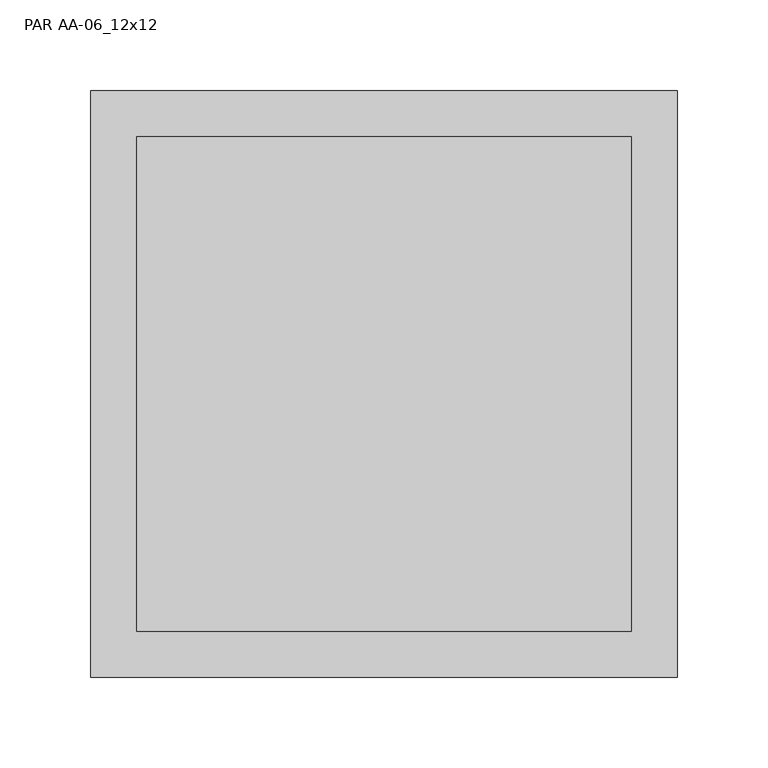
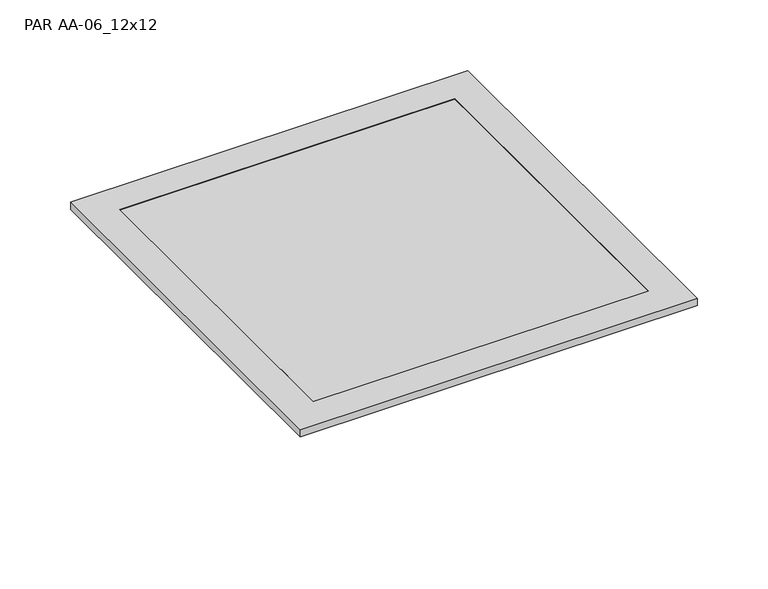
"""IFC4 building model written with IfcOpenShell, lengths in millimetres: air terminal geometry, Titus-Round_Neck_Exhaust_Diffuser-PAR_Surface_Mount : PAR AA-06_12x12."""

import ifcopenshell
import ifcopenshell.guid

model = None  # the IFC model being written
_history = None  # IfcOwnerHistory: only IFC2X3 demands one
_inside = {}  # id of a spatial element -> (the spatial element, [elements in it])
_under = {}  # id of a project, library or spatial element -> (it, [spatial elements below it])
_declared = {}  # id of a project -> (the project, [libraries it declares])
_typed = {}  # id of a type object -> (the type object, [elements of that type])
_made_of = {}  # id of a material, layer set ... -> (it, [elements and type objects made of it])


def new_model(schema):
    """Start an empty IFC model of exactly this schema.

    Asked for "IFC4X3", IfcOpenShell would pick the latest addendum, in which some entities
    have other attributes; the version numbers below select the first issue.
    IFC2X3 requires an IfcOwnerHistory on every rooted entity: one is made here for all.
    """
    global model, _history
    if schema == "IFC4X3":
        model = ifcopenshell.file(schema_version=(4, 3, 0, 0))
    else:
        model = ifcopenshell.file(schema=schema)
    _inside.clear()
    _under.clear()
    _declared.clear()
    _typed.clear()
    _made_of.clear()
    _history = None
    if model.schema == "IFC2X3":
        org = make("IfcOrganization", Name="unknown")
        user = make(
            "IfcPersonAndOrganization",
            ThePerson=make("IfcPerson", FamilyName="unknown"),
            TheOrganization=org,
        )
        app = make(
            "IfcApplication",
            ApplicationDeveloper=org,
            Version="unknown",
            ApplicationFullName="unknown",
            ApplicationIdentifier="unknown",
        )
        _history = make(
            "IfcOwnerHistory",
            OwningUser=user,
            OwningApplication=app,
            ChangeAction="ADDED",
            CreationDate=0,
        )
    return model


def make(cls, **values):
    """One entity of the class cls with the attributes given. An attribute that is None is left unset."""
    return model.create_entity(
        cls, **{name: value for name, value in values.items() if value is not None}
    )


def rooted(cls, **values):
    """An entity with a GlobalId (a new one), such as an element, a storey or a relation."""
    return make(cls, GlobalId=ifcopenshell.guid.new(), OwnerHistory=_history, **values)


def si_unit(unit_type, name, prefix=None):
    """IfcSIUnit, for example si_unit("LENGTHUNIT", "METRE", prefix="MILLI")."""
    return make("IfcSIUnit", UnitType=unit_type, Prefix=prefix, Name=name)


def assignment(units):
    """IfcUnitAssignment: the units of a project."""
    return None if units is None else make("IfcUnitAssignment", Units=units)


def point(xyz):
    """IfcCartesianPoint."""
    return None if xyz is None else make("IfcCartesianPoint", Coordinates=xyz)


def direction(xyz):
    """IfcDirection."""
    return None if xyz is None else make("IfcDirection", DirectionRatios=xyz)


def frame(location, z_axis=None, x_axis=None):
    """IfcAxis2Placement3D, a coordinate frame: its origin and axes. An axis left out is left unset."""
    return make(
        "IfcAxis2Placement3D",
        Location=point(location),
        Axis=direction(z_axis),
        RefDirection=direction(x_axis),
    )


def frame_2d(location, x_axis=None):
    """IfcAxis2Placement2D, a coordinate frame in the plane: its origin and x axis."""
    return make(
        "IfcAxis2Placement2D", Location=point(location), RefDirection=direction(x_axis)
    )


def origin():
    """The frame at (0, 0, 0) with its axes left unset."""
    return frame((0.0, 0.0, 0.0))


def origin_2d():
    """The frame at (0, 0) in the plane with its x axis left unset."""
    return frame_2d((0.0, 0.0))


def place(relative_to, where):
    """IfcLocalPlacement: puts the frame where relative to a parent placement (None: the world)."""
    return make(
        "IfcLocalPlacement", PlacementRelTo=relative_to, RelativePlacement=where
    )


def context(
    kind, dimensions, precision=None, world=None, true_north=None, identifier=None
):
    """IfcGeometricRepresentationContext, for example the 3D "Model" context."""
    return make(
        "IfcGeometricRepresentationContext",
        ContextIdentifier=identifier,
        ContextType=kind,
        CoordinateSpaceDimension=dimensions,
        Precision=precision,
        WorldCoordinateSystem=world,
        TrueNorth=true_north,
    )


def project(units=None, contexts=None):
    """IfcProject with its units and contexts."""
    return rooted(
        "IfcProject",
        Name="project",
        RepresentationContexts=contexts,
        UnitsInContext=assignment(units),
    )


def spatial(cls, under=None, at=None, **own):
    """A site, building, storey or space (cls), placed at a placement, below another one or the project."""
    s = rooted(cls, ObjectPlacement=at, **own)
    if under is not None:
        _under.setdefault(under.id(), (under, []))[1].append(s)
    return s


def polyline(points):
    """IfcPolyline through the points."""
    return make("IfcPolyline", Points=[point(p) for p in points])


def circle_curve(where, radius):
    """IfcCircle in the frame where."""
    return make("IfcCircle", Position=where, Radius=radius)


def trimmed(basis, trim1, trim2, sense, master):
    """IfcTrimmedCurve: the piece of a basis curve between two trims."""
    return make(
        "IfcTrimmedCurve",
        BasisCurve=basis,
        Trim1=trim1,
        Trim2=trim2,
        SenseAgreement=sense,
        MasterRepresentation=master,
    )


def segment(curve, same_sense, transition):
    """IfcCompositeCurveSegment."""
    return make(
        "IfcCompositeCurveSegment",
        Transition=transition,
        SameSense=same_sense,
        ParentCurve=curve,
    )


def composite_curve(segments, self_intersect=None):
    """IfcCompositeCurve: segments joined end to end."""
    return make("IfcCompositeCurve", Segments=segments, SelfIntersect=self_intersect)


def outline(outer, holes=None, kind="AREA"):
    """IfcArbitraryClosedProfileDef: a profile drawn as a closed curve; with holes, ...WithVoids."""
    if holes is None:
        return make("IfcArbitraryClosedProfileDef", ProfileType=kind, OuterCurve=outer)
    return make(
        "IfcArbitraryProfileDefWithVoids",
        ProfileType=kind,
        OuterCurve=outer,
        InnerCurves=holes,
    )


def extrude(swept, where, along, depth):
    """IfcExtrudedAreaSolid: the profile swept, set in the frame where, extruded along a direction by depth."""
    return make(
        "IfcExtrudedAreaSolid",
        SweptArea=swept,
        Position=where,
        ExtrudedDirection=direction(along),
        Depth=depth,
    )


def faces_of(points, faces, orient=None, outer=None):
    """IfcFace entities. A face is a list of loops; a loop is a list of indices into points, from 0.

    orient and outer hold one flag for each loop. By default every Orientation is true, the
    first loop of a face is its IfcFaceOuterBound and the others are IfcFaceBound.
    """
    made = []
    for i, loops in enumerate(faces):
        bounds = []
        for j, loop in enumerate(loops):
            is_outer = j == 0 if outer is None else outer[i][j]
            bounds.append(
                make(
                    "IfcFaceOuterBound" if is_outer else "IfcFaceBound",
                    Bound=make("IfcPolyLoop", Polygon=[points[k] for k in loop]),
                    Orientation=True if orient is None else orient[i][j],
                )
            )
        made.append(make("IfcFace", Bounds=bounds))
    return made


def faceted_brep(points, faces, orient=None, outer=None, voids=None):
    """IfcFacetedBrep: a solid bounded by flat faces; with voids (closed shells), ...WithVoids."""
    shared = [point(p) for p in points]
    hull = make("IfcClosedShell", CfsFaces=faces_of(shared, faces, orient, outer))
    if voids is None:
        return make("IfcFacetedBrep", Outer=hull)
    return make(
        "IfcFacetedBrepWithVoids",
        Outer=hull,
        Voids=[
            make(cls, CfsFaces=faces_of(shared, fs, o, b)) for cls, fs, o, b in voids
        ],
    )


def shape(context_of_items, identifier, shape_type, items):
    """IfcShapeRepresentation: the items that make up one representation, for example the "Body"."""
    return make(
        "IfcShapeRepresentation",
        ContextOfItems=context_of_items,
        RepresentationIdentifier=identifier,
        RepresentationType=shape_type,
        Items=items,
    )


def source(mapping_origin, context_of_items, identifier, shape_type, items):
    """IfcRepresentationMap: a shape defined once, which mapped items show again and again."""
    return make(
        "IfcRepresentationMap",
        MappingOrigin=mapping_origin,
        MappedRepresentation=shape(context_of_items, identifier, shape_type, items),
    )


def transform(
    local_origin,
    x_axis=None,
    y_axis=None,
    z_axis=None,
    scale=None,
    scale2=None,
    scale3=None,
    uniform=True,
):
    """IfcCartesianTransformationOperator3D, or its non-uniform kind. x_axis, y_axis, z_axis: its Axis1, 2, 3."""
    if uniform:
        return make(
            "IfcCartesianTransformationOperator3D",
            Axis1=direction(x_axis),
            Axis2=direction(y_axis),
            LocalOrigin=point(local_origin),
            Scale=scale,
            Axis3=direction(z_axis),
        )
    return make(
        "IfcCartesianTransformationOperator3DnonUniform",
        Axis1=direction(x_axis),
        Axis2=direction(y_axis),
        LocalOrigin=point(local_origin),
        Scale=scale,
        Axis3=direction(z_axis),
        Scale2=scale2,
        Scale3=scale3,
    )


def mapped(mapping_source, mapping_target):
    """IfcMappedItem: shows the shape of a source again, moved by a transform."""
    return make(
        "IfcMappedItem", MappingSource=mapping_source, MappingTarget=mapping_target
    )


def made_of(thing, what):
    """Note that an element or type object is made of a material, layer set ...; save() writes the relation."""
    if what is not None:
        _made_of.setdefault(what.id(), (what, []))[1].append(thing)
    return thing


def element(
    cls,
    number,
    at=None,
    inside=None,
    cuts=None,
    type_object=None,
    material=None,
    context=None,
    identifier="Body",
    shape_type=None,
    held_by="IfcProductDefinitionShape",
    body=None,
    shapes=None,
    **own,
):
    """One element of the class cls, such as IfcWall. Its Tag is "e" and its number.

    at: its placement. inside: the storey or other place that contains it. cuts: it is an
    opening in that element (IfcRelVoidsElement). A single representation is given by context,
    identifier, shape_type and body (its items); several are given by shapes. held_by: the class
    of the entity that holds the representations. save() writes the other relations.
    """
    e = rooted(cls, Tag="e%d" % number, ObjectPlacement=at, **own)
    if body is not None:
        shapes = [shape(context, identifier, shape_type, body)]
    if shapes is not None:
        e.Representation = make(held_by, Representations=shapes)
    if inside is not None:
        _inside.setdefault(inside.id(), (inside, []))[1].append(e)
    if cuts is not None:
        rooted(
            "IfcRelVoidsElement", RelatingBuildingElement=cuts, RelatedOpeningElement=e
        )
    if type_object is not None:
        _typed.setdefault(type_object.id(), (type_object, []))[1].append(e)
    return made_of(e, material)


def aggregate(whole, parts):
    """IfcRelAggregates: a whole, such as a stair, and the parts it consists of."""
    return rooted("IfcRelAggregates", RelatingObject=whole, RelatedObjects=parts)


def save(model, path):
    """Write the relations noted so far, then the file.

    IfcRelAggregates (storeys below a building ...), IfcRelContainedInSpatialStructure (elements
    in a storey), IfcRelDefinesByType, IfcRelAssociatesMaterial and IfcRelDeclares: one each for
    every whole, place, type object, material and project.
    """
    for whole, parts in _under.values():
        aggregate(whole, parts)
    for where, things in _inside.values():
        rooted(
            "IfcRelContainedInSpatialStructure",
            RelatedElements=things,
            RelatingStructure=where,
        )
    for kind, things in _typed.values():
        rooted("IfcRelDefinesByType", RelatedObjects=things, RelatingType=kind)
    for what, things in _made_of.values():
        rooted("IfcRelAssociatesMaterial", RelatedObjects=things, RelatingMaterial=what)
    for by, libraries in _declared.values():
        rooted("IfcRelDeclares", RelatingContext=by, RelatedDefinitions=libraries)
    model.write(path)


def par_aa_06_12x12_e7d1e0c0(model_context):
    return source(origin(), model_context, "Body", "SolidModel", [
        faceted_brep([(-161.925, 161.925, 0.0), (-161.925, 161.925, 6.35), (161.925, 161.925, 6.35), (161.925, 161.925, 0.0), (-136.525, 136.525, 6.35), (-136.525, 136.525, 5.55625), (136.525, 136.525, 5.55625), (136.525, 136.525, 6.35), (161.925, -161.925, 6.35), (161.925, -161.925, 0.0), (136.525, -136.525, 5.55625), (136.525, -136.525, 6.35), (-161.925, -161.925, 6.35), (-161.925, -161.925, 0.0), (-136.525, -136.525, 5.55625), (-136.525, -136.525, 6.35), (-161.13125, 161.13125, 0.0), (-161.13125, -161.13125, 0.0), (161.13125, -161.13125, 0.0), (161.13125, 161.13125, 0.0), (-161.13125, 161.13125, 5.55625), (161.13125, 161.13125, 5.55625), (161.13125, -161.13125, 5.55625), (-161.13125, -161.13125, 5.55625)], [[[0, 1, 2, 3]], [[4, 5, 6, 7]], [[3, 2, 8, 9]], [[7, 6, 10, 11]], [[9, 8, 12, 13]], [[11, 10, 14, 15]], [[1, 12, 8, 2], [7, 11, 15, 4]], [[13, 12, 1, 0]], [[3, 9, 13, 0], [16, 17, 18, 19]], [[15, 14, 5, 4]], [[20, 16, 19, 21]], [[21, 19, 18, 22]], [[22, 18, 17, 23]], [[23, 17, 16, 20]], [[21, 22, 23, 20], [5, 14, 10, 6]]]),
        faceted_brep([(114.3, 114.3, -31.75), (114.3, -114.3, -31.75), (-114.3, -114.3, -31.75), (-114.3, 114.3, -31.75), (-123.6578947, 123.6578947, -19.05), (123.6578947, 123.6578947, -19.05), (-123.6578947, -123.6578947, -19.05), (123.6578947, -123.6578947, -19.05), (136.525, 136.525, -19.05), (136.525, -136.525, -19.05), (-136.525, -136.525, -19.05), (-136.525, 136.525, -19.05), (-136.525, 136.525, -1.5875), (-136.525, 136.525, 4.7625), (136.525, 136.525, 4.7625), (136.525, 136.525, -1.5875), (-136.525, -136.525, -1.5875), (-136.525, -136.525, 4.7625), (136.525, -136.525, -1.5875), (136.525, -136.525, 4.7625), (149.225, 149.225, 5.55625), (-149.225, 149.225, 5.55625), (-149.225, -149.225, 5.55625), (149.225, -149.225, 5.55625), (149.225, 149.225, 4.7625), (149.225, -149.225, 4.7625), (-149.225, -149.225, 4.7625), (-149.225, 149.225, 4.7625)], [[[0, 1, 2, 3]], [[0, 3, 4, 5]], [[3, 2, 6, 4]], [[2, 1, 7, 6]], [[1, 0, 5, 7]], [[8, 9, 10, 11], [5, 4, 6, 7]], [[8, 11, 12, 13, 14, 15]], [[11, 10, 16, 17, 13, 12]], [[10, 9, 18, 19, 17, 16]], [[9, 8, 15, 14, 19, 18]], [[20, 21, 22, 23]], [[24, 25, 26, 27], [14, 13, 17, 19]], [[21, 20, 24, 27]], [[22, 21, 27, 26]], [[23, 22, 26, 25]], [[20, 23, 25, 24]]]),
        extrude(outline(polyline([(136.525, 136.525), (136.525, -136.525), (-136.525, -136.525), (-136.525, 136.525), (136.525, 136.525)])), frame((0.0, 0.0, 5.55625), z_axis=(0.0, 0.0, 1.0), x_axis=(1.0, 0.0, 0.0)), (0.0, 0.0, 1.0), 0.79375),
        extrude(outline(composite_curve([segment(trimmed(circle_curve(origin_2d(), 74.6125), [point((-74.6125, 0.0))], [point((74.6125, 0.0))], False, "CARTESIAN"), True, "CONTINUOUS"), segment(trimmed(circle_curve(origin_2d(), 74.6125), [point((74.6125, 0.0))], [point((-74.6125, 0.0))], False, "CARTESIAN"), True, "CONTINUOUS")], self_intersect=False), holes=[composite_curve([segment(trimmed(circle_curve(origin_2d(), 73.025), [point((-73.025, 0.0))], [point((73.025, 0.0))], True, "CARTESIAN"), True, "CONTINUOUS"), segment(trimmed(circle_curve(origin_2d(), 73.025), [point((73.025, 0.0))], [point((-73.025, 0.0))], True, "CARTESIAN"), True, "CONTINUOUS")], self_intersect=False)]), frame((0.0, 0.0, -69.85), z_axis=(0.0, 0.0, 1.0), x_axis=(1.0, 0.0, 0.0)), (0.0, 0.0, 1.0), 38.1),
    ])


if __name__ == "__main__":
    model = new_model("IFC4")
    model_context = context("Model", 3, world=origin())
    ifc_project = project(units=[si_unit("LENGTHUNIT", "METRE", prefix="MILLI")], contexts=[model_context])
    site = spatial("IfcSite", under=ifc_project)
    building = spatial("IfcBuilding", under=site)
    placement = place(None, origin())
    par_aa_06_12x12_shape = par_aa_06_12x12_e7d1e0c0(model_context)
    element("IfcAirTerminal", 1, ObjectType="Titus-Round_Neck_Exhaust_Diffuser-PAR_Surface_Mount : PAR AA-06_12x12", at=placement, inside=building, context=model_context, shape_type="MappedRepresentation", body=[
        mapped(par_aa_06_12x12_shape, transform((0.0, 0.0, 0.0), x_axis=(1.0, 0.0, 0.0), y_axis=(0.0, 1.0, 0.0), z_axis=(0.0, 0.0, 1.0))),
    ])
    save(model, "model.ifc")
